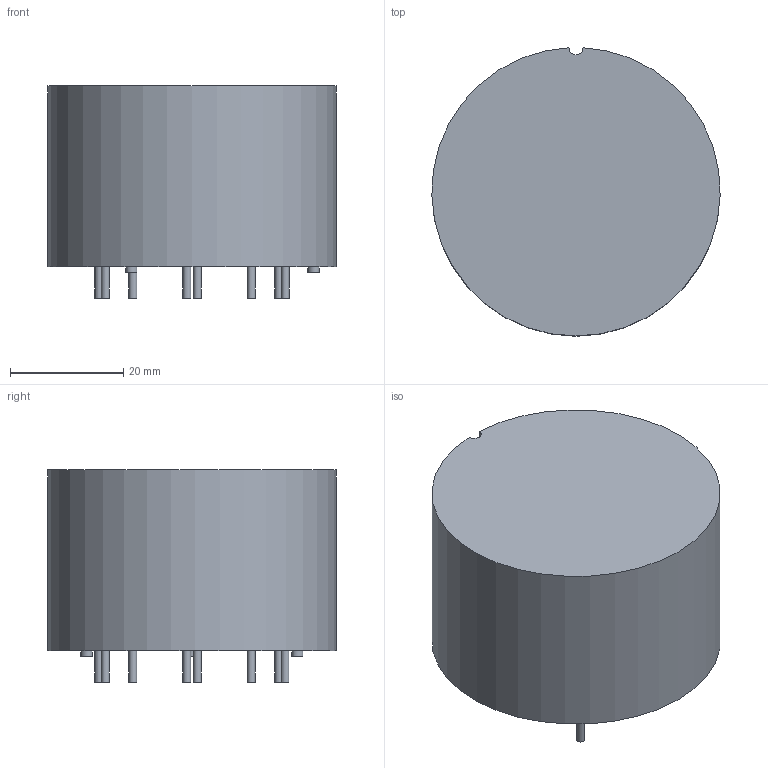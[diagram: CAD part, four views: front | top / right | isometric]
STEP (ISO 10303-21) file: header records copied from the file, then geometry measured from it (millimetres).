
FILE_DESCRIPTION(/* description */ (''),/* implementation_level */ '2;1');
FILE_NAME(/* name */ 'F:\2016年工作\2016年产品图纸\VAC\X2\4EA754C1\X0\3D模型\产品3D模型\6123-X400\6123-X400 3D model.stp',/* time_stamp */ '2016-07-01T15:17:17+08:00',/* author */ ('CN000560'),/* organization */ (''),/* preprocessor_version */ 'ST-DEVELOPER v16.1',/* originating_system */ 'Autodesk Inventor 2016',/* authorisation */ '');
FILE_SCHEMA (('AUTOMOTIVE_DESIGN { 1 0 10303 214 3 1 1 }'));
Length unit declared in the file: millimetre
Products named in the file (1): 6123-X400 3D model
Bounding box: 50.98 x 50.97 x 37.5 mm (x, y, z)
Volume: 65369.7 mm3; surface area: 9463.9 mm2
Topology: 1 solids, 1 shells, 26 faces, 39 edges, 26 vertices
Faces by surface type: cylinder 13, plane 13
Full cylindrical faces by diameter (mm): 1.4 x8, 2 x3
Entity records: 558 total; most frequent: DIRECTION 108, CARTESIAN_POINT 81, ORIENTED_EDGE 56, AXIS2_PLACEMENT_3D 53, EDGE_LOOP 48, EDGE_CURVE 28, FACE_OUTER_BOUND 26, CIRCLE 26
